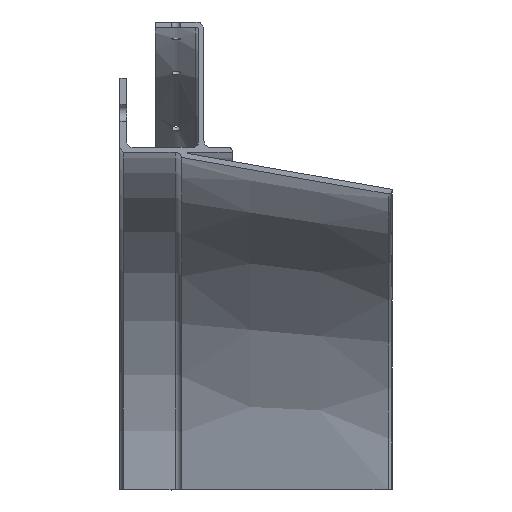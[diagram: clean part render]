
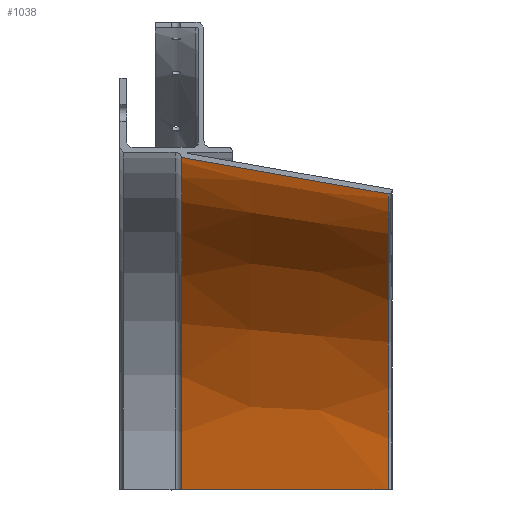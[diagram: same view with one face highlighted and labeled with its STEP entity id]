
A CAD part, top view. The second image highlights one B-rep face of the part: STEP entity #1038.
In plain terms, the highlighted conical face has half-angle 10 degrees and reference radius 93.031 mm.
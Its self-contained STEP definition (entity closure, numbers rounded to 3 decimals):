
#17=CONICAL_SURFACE('',#1160,93.031,0.175);
#113=LINE('',#1518,#175);
#122=LINE('',#1542,#184);
#175=VECTOR('',#1225,10.);
#184=VECTOR('',#1242,10.);
#282=FACE_OUTER_BOUND('',#355,.T.);
#355=EDGE_LOOP('',(#977,#978,#979,#980));
#394=CIRCLE('',#1104,98.523);
#397=CIRCLE('',#1109,87.713);
#445=VERTEX_POINT('',#1515);
#446=VERTEX_POINT('',#1517);
#456=VERTEX_POINT('',#1539);
#457=VERTEX_POINT('',#1541);
#556=EDGE_CURVE('',#445,#446,#113,.T.);
#568=EDGE_CURVE('',#457,#456,#122,.T.);
#599=EDGE_CURVE('',#457,#445,#394,.T.);
#602=EDGE_CURVE('',#446,#456,#397,.T.);
#977=ORIENTED_EDGE('',*,*,#602,.F.);
#978=ORIENTED_EDGE('',*,*,#556,.F.);
#979=ORIENTED_EDGE('',*,*,#599,.F.);
#980=ORIENTED_EDGE('',*,*,#568,.T.);
#1038=ADVANCED_FACE('',(#282),#17,.F.);
#1104=AXIS2_PLACEMENT_3D('',#1690,#1301,#1302);
#1109=AXIS2_PLACEMENT_3D('',#1695,#1311,#1312);
#1160=AXIS2_PLACEMENT_3D('',#2326,#1439,#1440);
#1225=DIRECTION('',(0.985,-0.174,0.));
#1242=DIRECTION('',(0.985,0.,0.174));
#1301=DIRECTION('center_axis',(1.,0.,0.));
#1302=DIRECTION('ref_axis',(0.,0.,-1.));
#1311=DIRECTION('center_axis',(-1.,0.,0.));
#1312=DIRECTION('ref_axis',(0.,0.707,-0.707));
#1439=DIRECTION('center_axis',(-1.,0.,0.));
#1440=DIRECTION('ref_axis',(0.,0.,-1.));
#1515=CARTESIAN_POINT('',(3569.602,98.523,-1986.193));
#1517=CARTESIAN_POINT('',(3630.906,87.713,-1986.193));
#1518=CARTESIAN_POINT('',(3569.602,98.523,-1986.193));
#1539=CARTESIAN_POINT('',(3630.906,0.,-2073.907));
#1541=CARTESIAN_POINT('',(3569.602,0.,-2084.716));
#1542=CARTESIAN_POINT('',(3569.602,0.,-2084.716));
#1690=CARTESIAN_POINT('Origin',(3569.602,0.,
-1986.193));
#1695=CARTESIAN_POINT('Origin',(3630.906,0.,
-1986.193));
#2326=CARTESIAN_POINT('Origin',(3600.746,0.,-1986.193));
